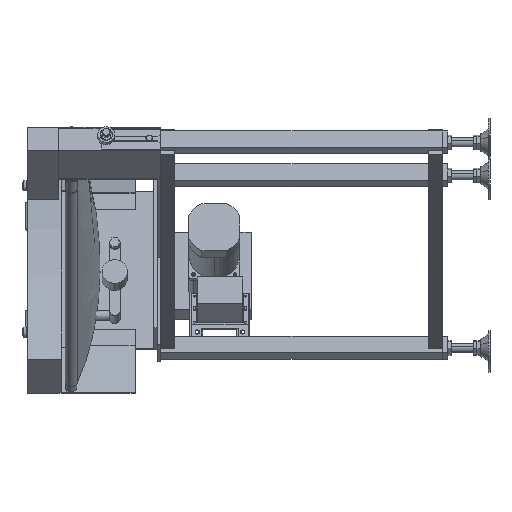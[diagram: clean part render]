
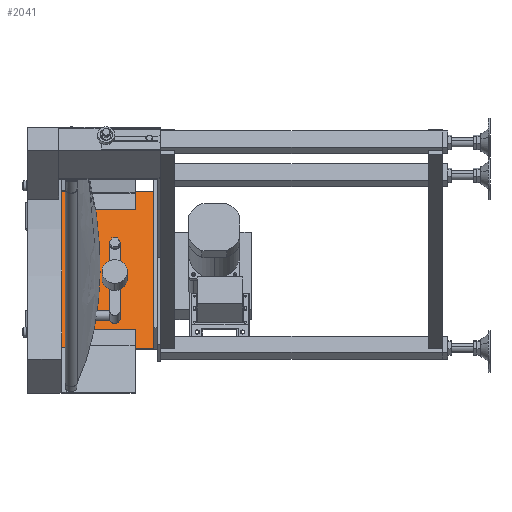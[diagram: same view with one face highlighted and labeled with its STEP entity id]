
A CAD part, left-side view. The second image highlights one B-rep face of the part: STEP entity #2041.
In plain terms, the highlighted planar face has unit normal (-0.924, 0, 0.383).
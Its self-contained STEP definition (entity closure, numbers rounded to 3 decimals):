
#2041=ADVANCED_FACE('',(#8566),#8565,.F.);
#8565=PLANE('',#18201);
#8566=FACE_OUTER_BOUND('',#18202,.T.);
#18198=CARTESIAN_POINT('',(547.607,-165.1,-400.009));
#18199=DIRECTION('',(0.924,0.,-0.383));
#18200=DIRECTION('',(0.,1.,0.));
#18201=AXIS2_PLACEMENT_3D('',#18198,#18199,#18200);
#18202=EDGE_LOOP('',(#23467,#23468,#23469,#23470));
#23467=ORIENTED_EDGE('',*,*,#27241,.T.);
#23468=ORIENTED_EDGE('',*,*,#27234,.F.);
#23469=ORIENTED_EDGE('',*,*,#27242,.F.);
#23470=ORIENTED_EDGE('',*,*,#27243,.T.);
#27234=EDGE_CURVE('',#37756,#37741,#37763,.T.);
#27241=EDGE_CURVE('',#37807,#37741,#37808,.T.);
#27242=EDGE_CURVE('',#37814,#37756,#37815,.T.);
#27243=EDGE_CURVE('',#37814,#37807,#37821,.T.);
#37741=VERTEX_POINT('',#52330);
#37756=VERTEX_POINT('',#52339);
#37763=LINE('',#52343,#52344);
#37807=VERTEX_POINT('',#52366);
#37808=LINE('',#52367,#52368);
#37814=VERTEX_POINT('',#52370);
#37815=LINE('',#52371,#52372);
#37821=LINE('',#52374,#52375);
#52330=CARTESIAN_POINT('',(551.434,-155.1,-390.77));
#52339=CARTESIAN_POINT('',(666.239,-155.1,-113.606));
#52343=CARTESIAN_POINT('',(666.239,-155.1,-113.606));
#52344=VECTOR('',#52345,300.);
#52345=DIRECTION('',(-0.383,0.,-0.924));
#52366=CARTESIAN_POINT('',(551.434,63.9,-390.77));
#52367=CARTESIAN_POINT('',(551.434,63.9,-390.77));
#52368=VECTOR('',#52369,219.);
#52369=DIRECTION('',(0.,-1.,0.));
#52370=CARTESIAN_POINT('',(666.239,63.9,-113.606));
#52371=CARTESIAN_POINT('',(666.239,63.9,-113.606));
#52372=VECTOR('',#52373,219.);
#52373=DIRECTION('',(0.,-1.,0.));
#52374=CARTESIAN_POINT('',(666.239,63.9,-113.606));
#52375=VECTOR('',#52376,300.);
#52376=DIRECTION('',(-0.383,0.,-0.924));
